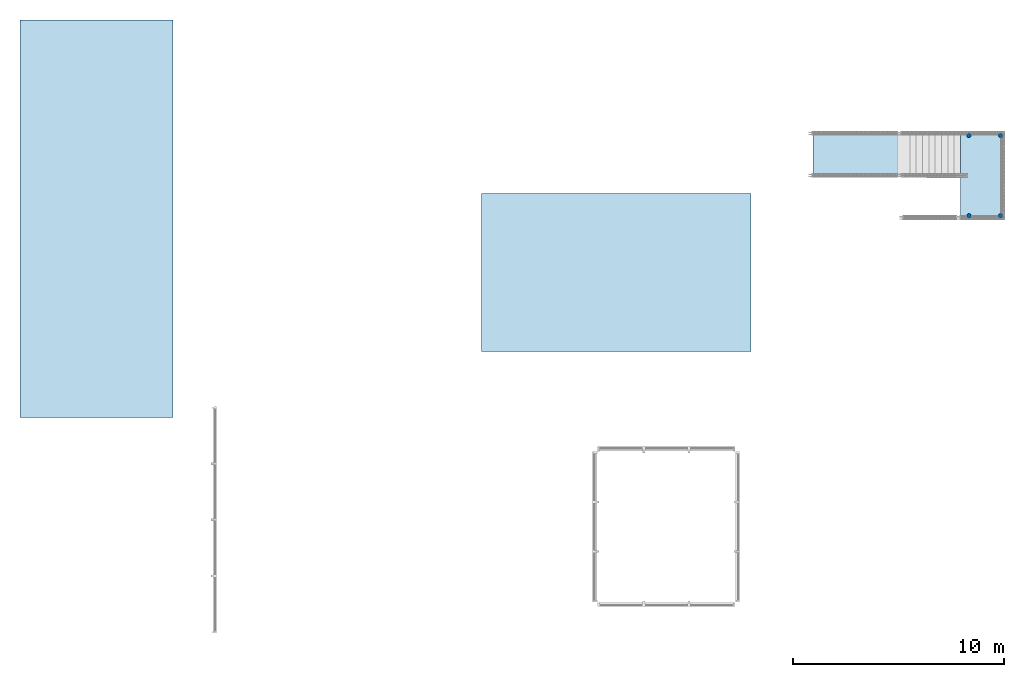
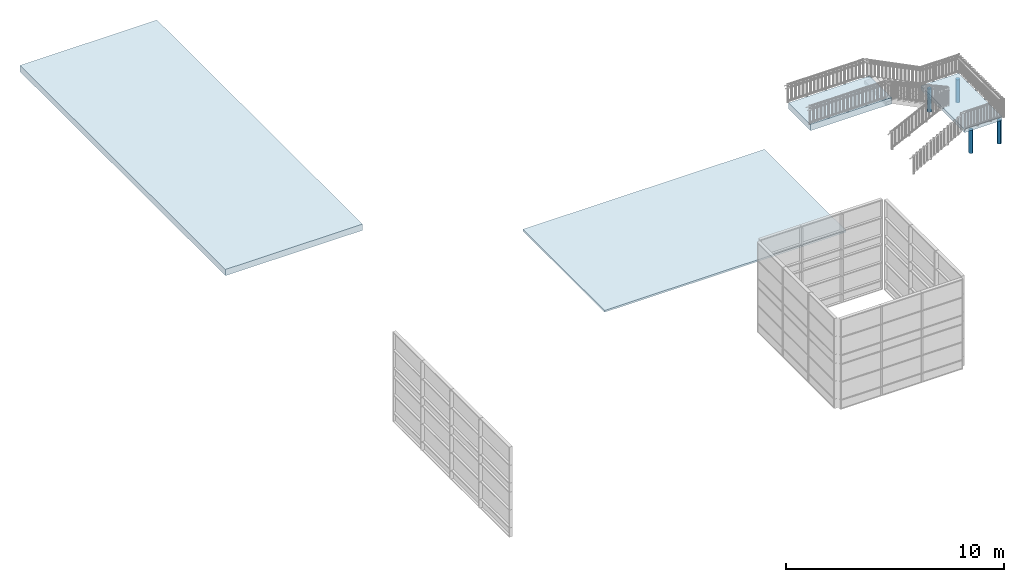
# One storey, part 1 of 19: 4 columns, 4 slabs.
"""IFC4 building model written with IfcOpenShell, lengths in millimetres."""

from ifc_helpers import new_model, entity, si_unit, converted_unit, derived_unit, direction, frame, origin_with_axes, place, context, subcontext, project, spatial, triangles, material, element, save


model = new_model("IFC4")

# Units and contexts
model_context = context("Model", 3, precision=1e-05, world=origin_with_axes(), true_north=direction((0.0, 1.0)))
body_context = subcontext(model_context, "Body", "Model", "MODEL_VIEW")
ifc_project = project(units=[si_unit("LENGTHUNIT", "METRE", prefix="MILLI"), si_unit("AREAUNIT", "SQUARE_METRE"), si_unit("VOLUMEUNIT", "CUBIC_METRE"), converted_unit("PLANEANGLEUNIT", "DEGREE", entity("IfcLengthMeasure", 0.017453), si_unit("PLANEANGLEUNIT", "RADIAN"), dimensions=[0, 0, 0, 0, 0, 0, 0]), si_unit("SOLIDANGLEUNIT", "STERADIAN"), si_unit("MASSUNIT", "GRAM"), si_unit("TIMEUNIT", "SECOND"), si_unit("THERMODYNAMICTEMPERATUREUNIT", "DEGREE_CELSIUS"), si_unit("LUMINOUSINTENSITYUNIT", "LUMEN"), si_unit("POWERUNIT", "WATT"), derived_unit("THERMALTRANSMITTANCEUNIT", [(si_unit("POWERUNIT", "WATT"), 1), (si_unit("THERMODYNAMICTEMPERATUREUNIT", "KELVIN"), -1), (si_unit("AREAUNIT", "SQUARE_METRE"), -1)])], contexts=[model_context])

# Site, building, storey
site_placement = place(None, origin_with_axes())
site = spatial("IfcSite", under=ifc_project, at=site_placement, Name="Default Site", CompositionType="ELEMENT")
building_placement = place(site_placement, origin_with_axes())
building = spatial("IfcBuilding", under=site, at=building_placement, Name="Default Building", CompositionType="ELEMENT")
storey_placement = place(building_placement, frame((0.0, 0.0, 3000.0), z_axis=(0.0, 0.0, 1.0), x_axis=(1.0, 0.0, 0.0)))
storey = spatial("IfcBuildingStorey", under=building, at=storey_placement, Name="EG - Story", CompositionType="ELEMENT", Elevation=3000.0)

# Columns
ifc_material_1 = material(Name="Tragende Bauteile")
column_1_placement = place(storey_placement, frame((87151.391327, -27689.262838, -3000.0), z_axis=(0.0, 0.0, 1.0), x_axis=(1.0, 0.0, 0.0)))
element("IfcColumn", 1, at=column_1_placement, inside=storey, material=ifc_material_1, Name="Stütze-004", PredefinedType="NOTDEFINED", context=body_context, shape_type="Tessellation", body=[
    triangles([(-99.999, 0.0, 1300.0), (-99.999, 0.0, 0.0), (-96.592, -25.881, 0.0), (-96.592, -25.881, 1300.0), (-96.592, 25.882, 1300.0), (-96.592, 25.882, 0.0), (-86.602, 50.0, 0.0), (-70.71, 70.711, 0.0), (-49.999, 86.603, 0.0), (-25.881, 96.593, 0.0), (0.0, 100.0, 0.0), (25.882, 96.593, 0.0), (50.0, 86.603, 0.0), (70.711, 70.711, 0.0), (86.603, 50.0, 0.0), (96.593, 25.882, 0.0), (100.0, 0.0, 0.0), (96.593, -25.881, 0.0), (86.603, -49.999, 0.0), (70.711, -70.71, 0.0), (50.0, -86.602, 0.0), (25.882, -96.592, 0.0), (0.0, -99.999, 0.0), (-25.881, -96.592, 0.0), (-49.999, -86.602, 0.0), (-70.71, -70.71, 0.0), (-86.602, -49.999, 0.0), (-86.602, -49.999, 1300.0), (-70.71, -70.71, 1300.0), (-49.999, -86.602, 1300.0), (-25.881, -96.592, 1300.0), (0.0, -99.999, 1300.0), (25.882, -96.592, 1300.0), (50.0, -86.602, 1300.0), (70.711, -70.71, 1300.0), (86.603, -49.999, 1300.0), (96.593, -25.881, 1300.0), (100.0, 0.0, 1300.0), (96.593, 25.882, 1300.0), (86.603, 50.0, 1300.0), (70.711, 70.711, 1300.0), (50.0, 86.603, 1300.0), (25.882, 96.593, 1300.0), (0.0, 100.0, 1300.0), (-25.881, 96.593, 1300.0), (-49.999, 86.603, 1300.0), (-70.71, 70.711, 1300.0), (-86.602, 50.0, 1300.0)], [[1, 2, 3], [1, 3, 4], [5, 6, 2], [5, 2, 1], [3, 2, 6], [3, 6, 7], [3, 7, 8], [3, 8, 9], [3, 9, 10], [3, 10, 11], [3, 11, 12], [3, 12, 13], [3, 13, 14], [3, 14, 15], [3, 15, 16], [3, 16, 17], [3, 17, 18], [3, 18, 19], [3, 19, 20], [3, 20, 21], [3, 21, 22], [3, 22, 23], [3, 23, 24], [3, 24, 25], [3, 25, 26], [3, 26, 27], [4, 3, 27], [4, 27, 28], [5, 1, 4], [5, 4, 28], [5, 28, 29], [5, 29, 30], [5, 30, 31], [5, 31, 32], [5, 32, 33], [5, 33, 34], [5, 34, 35], [5, 35, 36], [5, 36, 37], [5, 37, 38], [5, 38, 39], [5, 39, 40], [5, 40, 41], [5, 41, 42], [5, 42, 43], [5, 43, 44], [5, 44, 45], [5, 45, 46], [5, 46, 47], [5, 47, 48], [48, 7, 6], [48, 6, 5], [47, 8, 7], [47, 7, 48], [46, 9, 8], [46, 8, 47], [45, 10, 9], [45, 9, 46], [44, 11, 10], [44, 10, 45], [43, 12, 11], [43, 11, 44], [42, 13, 12], [42, 12, 43], [41, 14, 13], [41, 13, 42], [40, 15, 14], [40, 14, 41], [39, 16, 15], [39, 15, 40], [38, 17, 16], [38, 16, 39], [37, 18, 17], [37, 17, 38], [36, 19, 18], [36, 18, 37], [35, 20, 19], [35, 19, 36], [34, 21, 20], [34, 20, 35], [33, 22, 21], [33, 21, 34], [32, 23, 22], [32, 22, 33], [31, 24, 23], [31, 23, 32], [30, 25, 24], [30, 24, 31], [29, 26, 25], [29, 25, 30], [28, 27, 26], [28, 26, 29]], closed=False),
])
column_2_placement = place(storey_placement, frame((87151.391327, -31489.262838, -3000.0), z_axis=(0.0, 0.0, 1.0), x_axis=(1.0, 0.0, 0.0)))
element("IfcColumn", 2, at=column_2_placement, inside=storey, material=ifc_material_1, Name="Stütze-004", PredefinedType="NOTDEFINED", context=body_context, shape_type="Tessellation", body=[
    triangles([(-99.999, 0.0, 1300.0), (-99.999, 0.0, 0.0), (-96.592, -25.881, 0.0), (-96.592, -25.881, 1300.0), (-96.592, 25.882, 1300.0), (-96.592, 25.882, 0.0), (-86.602, 50.0, 0.0), (-70.71, 70.711, 0.0), (-49.999, 86.603, 0.0), (-25.881, 96.593, 0.0), (0.0, 100.0, 0.0), (25.882, 96.593, 0.0), (50.0, 86.603, 0.0), (70.711, 70.711, 0.0), (86.603, 50.0, 0.0), (96.593, 25.882, 0.0), (100.0, 0.0, 0.0), (96.593, -25.881, 0.0), (86.603, -49.999, 0.0), (70.711, -70.71, 0.0), (50.0, -86.602, 0.0), (25.882, -96.592, 0.0), (0.0, -99.999, 0.0), (-25.881, -96.592, 0.0), (-49.999, -86.602, 0.0), (-70.71, -70.71, 0.0), (-86.602, -49.999, 0.0), (-86.602, -49.999, 1300.0), (-70.71, -70.71, 1300.0), (-49.999, -86.602, 1300.0), (-25.881, -96.592, 1300.0), (0.0, -99.999, 1300.0), (25.882, -96.592, 1300.0), (50.0, -86.602, 1300.0), (70.711, -70.71, 1300.0), (86.603, -49.999, 1300.0), (96.593, -25.881, 1300.0), (100.0, 0.0, 1300.0), (96.593, 25.882, 1300.0), (86.603, 50.0, 1300.0), (70.711, 70.711, 1300.0), (50.0, 86.603, 1300.0), (25.882, 96.593, 1300.0), (0.0, 100.0, 1300.0), (-25.881, 96.593, 1300.0), (-49.999, 86.603, 1300.0), (-70.71, 70.711, 1300.0), (-86.602, 50.0, 1300.0)], [[1, 2, 3], [1, 3, 4], [5, 6, 2], [5, 2, 1], [3, 2, 6], [3, 6, 7], [3, 7, 8], [3, 8, 9], [3, 9, 10], [3, 10, 11], [3, 11, 12], [3, 12, 13], [3, 13, 14], [3, 14, 15], [3, 15, 16], [3, 16, 17], [3, 17, 18], [3, 18, 19], [3, 19, 20], [3, 20, 21], [3, 21, 22], [3, 22, 23], [3, 23, 24], [3, 24, 25], [3, 25, 26], [3, 26, 27], [4, 3, 27], [4, 27, 28], [5, 1, 4], [5, 4, 28], [5, 28, 29], [5, 29, 30], [5, 30, 31], [5, 31, 32], [5, 32, 33], [5, 33, 34], [5, 34, 35], [5, 35, 36], [5, 36, 37], [5, 37, 38], [5, 38, 39], [5, 39, 40], [5, 40, 41], [5, 41, 42], [5, 42, 43], [5, 43, 44], [5, 44, 45], [5, 45, 46], [5, 46, 47], [5, 47, 48], [48, 7, 6], [48, 6, 5], [47, 8, 7], [47, 7, 48], [46, 9, 8], [46, 8, 47], [45, 10, 9], [45, 9, 46], [44, 11, 10], [44, 10, 45], [43, 12, 11], [43, 11, 44], [42, 13, 12], [42, 12, 43], [41, 14, 13], [41, 13, 42], [40, 15, 14], [40, 14, 41], [39, 16, 15], [39, 15, 40], [38, 17, 16], [38, 16, 39], [37, 18, 17], [37, 17, 38], [36, 19, 18], [36, 18, 37], [35, 20, 19], [35, 19, 36], [34, 21, 20], [34, 20, 35], [33, 22, 21], [33, 21, 34], [32, 23, 22], [32, 22, 33], [31, 24, 23], [31, 23, 32], [30, 25, 24], [30, 24, 31], [29, 26, 25], [29, 25, 30], [28, 27, 26], [28, 26, 29]], closed=False),
])
column_3_placement = place(storey_placement, frame((88651.391327, -31489.262838, -3000.0), z_axis=(0.0, 0.0, 1.0), x_axis=(1.0, 0.0, 0.0)))
element("IfcColumn", 3, at=column_3_placement, inside=storey, material=ifc_material_1, Name="Stütze-004", PredefinedType="NOTDEFINED", context=body_context, shape_type="Tessellation", body=[
    triangles([(-99.999, 0.0, 1300.0), (-99.999, 0.0, 0.0), (-96.592, -25.881, 0.0), (-96.592, -25.881, 1300.0), (-96.592, 25.882, 1300.0), (-96.592, 25.882, 0.0), (-86.602, 50.0, 0.0), (-70.71, 70.711, 0.0), (-49.999, 86.603, 0.0), (-25.881, 96.593, 0.0), (0.0, 100.0, 0.0), (25.882, 96.593, 0.0), (50.0, 86.603, 0.0), (70.711, 70.711, 0.0), (86.603, 50.0, 0.0), (96.593, 25.882, 0.0), (100.0, 0.0, 0.0), (96.593, -25.881, 0.0), (86.603, -49.999, 0.0), (70.711, -70.71, 0.0), (50.0, -86.602, 0.0), (25.882, -96.592, 0.0), (0.0, -99.999, 0.0), (-25.881, -96.592, 0.0), (-49.999, -86.602, 0.0), (-70.71, -70.71, 0.0), (-86.602, -49.999, 0.0), (-86.602, -49.999, 1300.0), (-70.71, -70.71, 1300.0), (-49.999, -86.602, 1300.0), (-25.881, -96.592, 1300.0), (0.0, -99.999, 1300.0), (25.882, -96.592, 1300.0), (50.0, -86.602, 1300.0), (70.711, -70.71, 1300.0), (86.603, -49.999, 1300.0), (96.593, -25.881, 1300.0), (100.0, 0.0, 1300.0), (96.593, 25.882, 1300.0), (86.603, 50.0, 1300.0), (70.711, 70.711, 1300.0), (50.0, 86.603, 1300.0), (25.882, 96.593, 1300.0), (0.0, 100.0, 1300.0), (-25.881, 96.593, 1300.0), (-49.999, 86.603, 1300.0), (-70.71, 70.711, 1300.0), (-86.602, 50.0, 1300.0)], [[1, 2, 3], [1, 3, 4], [5, 6, 2], [5, 2, 1], [3, 2, 6], [3, 6, 7], [3, 7, 8], [3, 8, 9], [3, 9, 10], [3, 10, 11], [3, 11, 12], [3, 12, 13], [3, 13, 14], [3, 14, 15], [3, 15, 16], [3, 16, 17], [3, 17, 18], [3, 18, 19], [3, 19, 20], [3, 20, 21], [3, 21, 22], [3, 22, 23], [3, 23, 24], [3, 24, 25], [3, 25, 26], [3, 26, 27], [4, 3, 27], [4, 27, 28], [5, 1, 4], [5, 4, 28], [5, 28, 29], [5, 29, 30], [5, 30, 31], [5, 31, 32], [5, 32, 33], [5, 33, 34], [5, 34, 35], [5, 35, 36], [5, 36, 37], [5, 37, 38], [5, 38, 39], [5, 39, 40], [5, 40, 41], [5, 41, 42], [5, 42, 43], [5, 43, 44], [5, 44, 45], [5, 45, 46], [5, 46, 47], [5, 47, 48], [48, 7, 6], [48, 6, 5], [47, 8, 7], [47, 7, 48], [46, 9, 8], [46, 8, 47], [45, 10, 9], [45, 9, 46], [44, 11, 10], [44, 10, 45], [43, 12, 11], [43, 11, 44], [42, 13, 12], [42, 12, 43], [41, 14, 13], [41, 13, 42], [40, 15, 14], [40, 14, 41], [39, 16, 15], [39, 15, 40], [38, 17, 16], [38, 16, 39], [37, 18, 17], [37, 17, 38], [36, 19, 18], [36, 18, 37], [35, 20, 19], [35, 19, 36], [34, 21, 20], [34, 20, 35], [33, 22, 21], [33, 21, 34], [32, 23, 22], [32, 22, 33], [31, 24, 23], [31, 23, 32], [30, 25, 24], [30, 24, 31], [29, 26, 25], [29, 25, 30], [28, 27, 26], [28, 26, 29]], closed=False),
])
column_4_placement = place(storey_placement, frame((88651.391327, -27689.262838, -3000.0), z_axis=(0.0, 0.0, 1.0), x_axis=(1.0, 0.0, 0.0)))
element("IfcColumn", 4, at=column_4_placement, inside=storey, material=ifc_material_1, Name="Stütze-004", PredefinedType="NOTDEFINED", context=body_context, shape_type="Tessellation", body=[
    triangles([(-99.999, 0.0, 1300.0), (-99.999, 0.0, 0.0), (-96.592, -25.881, 0.0), (-96.592, -25.881, 1300.0), (-96.592, 25.882, 1300.0), (-96.592, 25.882, 0.0), (-86.602, 50.0, 0.0), (-70.71, 70.711, 0.0), (-49.999, 86.603, 0.0), (-25.881, 96.593, 0.0), (0.0, 100.0, 0.0), (25.882, 96.593, 0.0), (50.0, 86.603, 0.0), (70.711, 70.711, 0.0), (86.603, 50.0, 0.0), (96.593, 25.882, 0.0), (100.0, 0.0, 0.0), (96.593, -25.881, 0.0), (86.603, -49.999, 0.0), (70.711, -70.71, 0.0), (50.0, -86.602, 0.0), (25.882, -96.592, 0.0), (0.0, -99.999, 0.0), (-25.881, -96.592, 0.0), (-49.999, -86.602, 0.0), (-70.71, -70.71, 0.0), (-86.602, -49.999, 0.0), (-86.602, -49.999, 1300.0), (-70.71, -70.71, 1300.0), (-49.999, -86.602, 1300.0), (-25.881, -96.592, 1300.0), (0.0, -99.999, 1300.0), (25.882, -96.592, 1300.0), (50.0, -86.602, 1300.0), (70.711, -70.71, 1300.0), (86.603, -49.999, 1300.0), (96.593, -25.881, 1300.0), (100.0, 0.0, 1300.0), (96.593, 25.882, 1300.0), (86.603, 50.0, 1300.0), (70.711, 70.711, 1300.0), (50.0, 86.603, 1300.0), (25.882, 96.593, 1300.0), (0.0, 100.0, 1300.0), (-25.881, 96.593, 1300.0), (-49.999, 86.603, 1300.0), (-70.71, 70.711, 1300.0), (-86.602, 50.0, 1300.0)], [[1, 2, 3], [1, 3, 4], [5, 6, 2], [5, 2, 1], [3, 2, 6], [3, 6, 7], [3, 7, 8], [3, 8, 9], [3, 9, 10], [3, 10, 11], [3, 11, 12], [3, 12, 13], [3, 13, 14], [3, 14, 15], [3, 15, 16], [3, 16, 17], [3, 17, 18], [3, 18, 19], [3, 19, 20], [3, 20, 21], [3, 21, 22], [3, 22, 23], [3, 23, 24], [3, 24, 25], [3, 25, 26], [3, 26, 27], [4, 3, 27], [4, 27, 28], [5, 1, 4], [5, 4, 28], [5, 28, 29], [5, 29, 30], [5, 30, 31], [5, 31, 32], [5, 32, 33], [5, 33, 34], [5, 34, 35], [5, 35, 36], [5, 36, 37], [5, 37, 38], [5, 38, 39], [5, 39, 40], [5, 40, 41], [5, 41, 42], [5, 42, 43], [5, 43, 44], [5, 44, 45], [5, 45, 46], [5, 46, 47], [5, 47, 48], [48, 7, 6], [48, 6, 5], [47, 8, 7], [47, 7, 48], [46, 9, 8], [46, 8, 47], [45, 10, 9], [45, 9, 46], [44, 11, 10], [44, 10, 45], [43, 12, 11], [43, 11, 44], [42, 13, 12], [42, 12, 43], [41, 14, 13], [41, 13, 42], [40, 15, 14], [40, 14, 41], [39, 16, 15], [39, 15, 40], [38, 17, 16], [38, 16, 39], [37, 18, 17], [37, 17, 38], [36, 19, 18], [36, 18, 37], [35, 20, 19], [35, 19, 36], [34, 21, 20], [34, 20, 35], [33, 22, 21], [33, 21, 34], [32, 23, 22], [32, 22, 33], [31, 24, 23], [31, 23, 32], [30, 25, 24], [30, 24, 31], [29, 26, 25], [29, 25, 30], [28, 27, 26], [28, 26, 29]], closed=False),
])

# Slabs
ifc_material_2 = material(Name="Bauteil")
slab_1_placement = place(storey_placement, frame((42143.246617, -41059.262838, 12000.0), z_axis=(0.0, 0.0, 1.0), x_axis=(1.0, 0.0, 0.0)))
element("IfcSlab", 5, at=slab_1_placement, inside=storey, material=ifc_material_2, Name="Decke-002", PredefinedType="NOTDEFINED", context=body_context, shape_type="Tessellation", body=[
    triangles([(0.0, 0.0, 0.0), (0.0, 0.0, -349.999), (7254.435, 0.0, -349.999), (7254.435, 0.0, 0.0), (0.0, 18852.22, 0.0), (0.0, 18852.22, -349.999), (7254.435, 18852.22, -349.999), (7254.435, 18852.22, 0.0)], [[1, 2, 3], [1, 3, 4], [5, 6, 2], [5, 2, 1], [3, 2, 6], [3, 6, 7], [4, 3, 7], [4, 7, 8], [5, 1, 4], [5, 4, 8], [8, 7, 6], [8, 6, 5]], closed=False),
])
slab_2_placement = place(storey_placement, frame((86751.391327, -31589.262838, -1500.0), z_axis=(0.0, 0.0, 1.0), x_axis=(1.0, 0.0, 0.0)))
element("IfcSlab", 6, at=slab_2_placement, inside=storey, material=ifc_material_2, Name="Decke-005", PredefinedType="NOTDEFINED", context=body_context, shape_type="Tessellation", body=[
    triangles([(2000.0, 0.0, 0.0), (0.0, 0.0, 0.0), (0.0, 0.0, -199.999), (2000.0, 0.0, -199.999), (2000.0, 4000.0, 0.0), (0.0, 4000.0, 0.0), (0.0, 4000.0, -199.999), (2000.0, 4000.0, -199.999)], [[1, 2, 3], [1, 3, 4], [5, 6, 2], [5, 2, 1], [2, 6, 7], [2, 7, 3], [8, 4, 3], [8, 3, 7], [5, 1, 4], [5, 4, 8], [6, 5, 8], [6, 8, 7]], closed=False),
])
slab_3_placement = place(storey_placement, frame((64028.22863, -37939.262838, 150.0), z_axis=(0.0, 0.0, 1.0), x_axis=(1.0, 0.0, 0.0)))
element("IfcSlab", 7, at=slab_3_placement, inside=storey, material=ifc_material_2, Name="Decke-004", PredefinedType="NOTDEFINED", context=body_context, shape_type="Tessellation", body=[
    triangles([(0.0, 0.0, 0.0), (0.0, 0.0, -99.999), (12791.21, 0.0, -99.999), (12791.21, 0.0, 0.0), (0.0, 7500.0, 0.0), (0.0, 7500.0, -99.999), (12791.21, 7500.0, -99.999), (12791.21, 7500.0, 0.0)], [[1, 2, 3], [1, 3, 4], [5, 6, 2], [5, 2, 1], [3, 2, 6], [3, 6, 7], [4, 3, 7], [4, 7, 8], [5, 1, 4], [5, 4, 8], [8, 7, 6], [8, 6, 5]], closed=False),
])
slab_4_placement = place(storey_placement, frame((79751.391327, -29589.262838, 0.0), z_axis=(0.0, 0.0, 1.0), x_axis=(1.0, 0.0, 0.0)))
element("IfcSlab", 8, at=slab_4_placement, inside=storey, material=ifc_material_2, Name="Decke-005", PredefinedType="NOTDEFINED", context=body_context, shape_type="Tessellation", body=[
    triangles([(0.0, 0.0, 0.0), (0.0, 0.0, -349.999), (4300.0, 0.0, -349.999), (4300.0, 0.0, 0.0), (0.0, 2000.0, 0.0), (0.0, 2000.0, -349.999), (4300.0, 2000.0, -349.999), (4300.0, 2000.0, 0.0)], [[1, 2, 3], [1, 3, 4], [5, 6, 2], [5, 2, 1], [3, 2, 6], [3, 6, 7], [4, 3, 7], [4, 7, 8], [5, 1, 4], [5, 4, 8], [8, 7, 6], [8, 6, 5]], closed=False),
])

save(model, "model.ifc")
